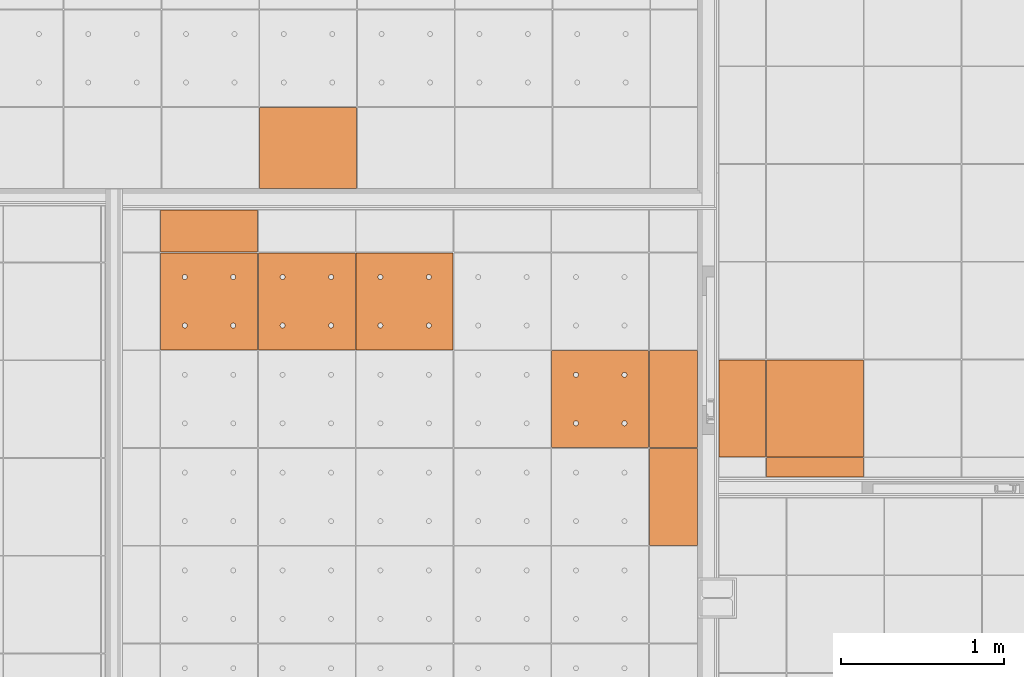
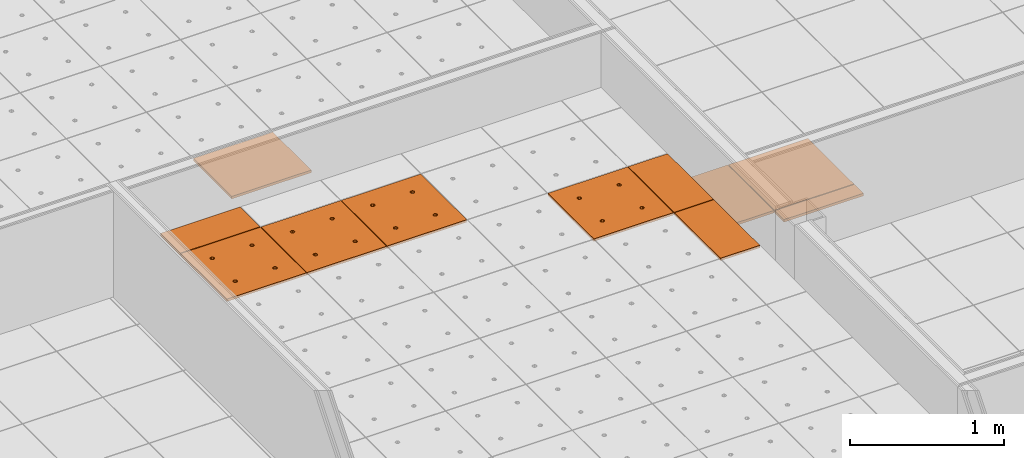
# One storey, part 277 of 338: 11 proxies, 3 elements without a shape of their own.
"""IFC2X3 building model written with IfcOpenShell, lengths in millimetres."""

import ifcopenshell
import ifcopenshell.guid

model = None  # the IFC model being written
_history = None  # IfcOwnerHistory: only IFC2X3 demands one
_inside = {}  # id of a spatial element -> (the spatial element, [elements in it])
_under = {}  # id of a project, library or spatial element -> (it, [spatial elements below it])
_declared = {}  # id of a project -> (the project, [libraries it declares])
_typed = {}  # id of a type object -> (the type object, [elements of that type])
_made_of = {}  # id of a material, layer set ... -> (it, [elements and type objects made of it])


def new_model(schema):
    """Start an empty IFC model of exactly this schema.

    Asked for "IFC4X3", IfcOpenShell would pick the latest addendum, in which some entities
    have other attributes; the version numbers below select the first issue.
    IFC2X3 requires an IfcOwnerHistory on every rooted entity: one is made here for all.
    """
    global model, _history
    if schema == "IFC4X3":
        model = ifcopenshell.file(schema_version=(4, 3, 0, 0))
    else:
        model = ifcopenshell.file(schema=schema)
    _inside.clear()
    _under.clear()
    _declared.clear()
    _typed.clear()
    _made_of.clear()
    _history = None
    if model.schema == "IFC2X3":
        org = make("IfcOrganization", Name="unknown")
        user = make(
            "IfcPersonAndOrganization",
            ThePerson=make("IfcPerson", FamilyName="unknown"),
            TheOrganization=org,
        )
        app = make(
            "IfcApplication",
            ApplicationDeveloper=org,
            Version="unknown",
            ApplicationFullName="unknown",
            ApplicationIdentifier="unknown",
        )
        _history = make(
            "IfcOwnerHistory",
            OwningUser=user,
            OwningApplication=app,
            ChangeAction="ADDED",
            CreationDate=0,
        )
    return model


def make(cls, **values):
    """One entity of the class cls with the attributes given. An attribute that is None is left unset."""
    return model.create_entity(
        cls, **{name: value for name, value in values.items() if value is not None}
    )


def entity(cls, *values):
    """Any entity or typed value of the class cls, its attributes in the order of the schema. None: left unset."""
    e = model.create_entity(cls)
    for i, value in enumerate(values):
        if value is not None:
            e[i] = value
    return e


def rooted(cls, **values):
    """An entity with a GlobalId (a new one), such as an element, a storey or a relation."""
    return make(cls, GlobalId=ifcopenshell.guid.new(), OwnerHistory=_history, **values)


def si_unit(unit_type, name, prefix=None):
    """IfcSIUnit, for example si_unit("LENGTHUNIT", "METRE", prefix="MILLI")."""
    return make("IfcSIUnit", UnitType=unit_type, Prefix=prefix, Name=name)


def converted_unit(unit_type, name, factor, base, dimensions=None, offset=None):
    """IfcConversionBasedUnit, such as the inch: factor (a typed value) times the base unit."""
    return make(
        "IfcConversionBasedUnit"
        if offset is None
        else "IfcConversionBasedUnitWithOffset",
        ConversionOffset=offset,
        Dimensions=None
        if dimensions is None
        else entity("IfcDimensionalExponents", *dimensions),
        UnitType=unit_type,
        Name=name,
        ConversionFactor=make(
            "IfcMeasureWithUnit", ValueComponent=factor, UnitComponent=base
        ),
    )


def derived_unit(unit_type, elements):
    """IfcDerivedUnit: a product of units, each with its exponent."""
    return make(
        "IfcDerivedUnit",
        Elements=[
            make("IfcDerivedUnitElement", Unit=unit, Exponent=power)
            for unit, power in elements
        ],
        UnitType=unit_type,
    )


def money_unit(currency):
    """IfcMonetaryUnit."""
    return make("IfcMonetaryUnit", Currency=currency)


def assignment(units):
    """IfcUnitAssignment: the units of a project."""
    return None if units is None else make("IfcUnitAssignment", Units=units)


def point(xyz):
    """IfcCartesianPoint."""
    return None if xyz is None else make("IfcCartesianPoint", Coordinates=xyz)


def direction(xyz):
    """IfcDirection."""
    return None if xyz is None else make("IfcDirection", DirectionRatios=xyz)


def frame(location, z_axis=None, x_axis=None):
    """IfcAxis2Placement3D, a coordinate frame: its origin and axes. An axis left out is left unset."""
    return make(
        "IfcAxis2Placement3D",
        Location=point(location),
        Axis=direction(z_axis),
        RefDirection=direction(x_axis),
    )


def origin_with_axes():
    """The frame at (0, 0, 0) with the z axis (0, 0, 1) and the x axis (1, 0, 0) written out."""
    return frame((0.0, 0.0, 0.0), z_axis=(0.0, 0.0, 1.0), x_axis=(1.0, 0.0, 0.0))


def place(relative_to, where):
    """IfcLocalPlacement: puts the frame where relative to a parent placement (None: the world)."""
    return make(
        "IfcLocalPlacement", PlacementRelTo=relative_to, RelativePlacement=where
    )


def context(
    kind, dimensions, precision=None, world=None, true_north=None, identifier=None
):
    """IfcGeometricRepresentationContext, for example the 3D "Model" context."""
    return make(
        "IfcGeometricRepresentationContext",
        ContextIdentifier=identifier,
        ContextType=kind,
        CoordinateSpaceDimension=dimensions,
        Precision=precision,
        WorldCoordinateSystem=world,
        TrueNorth=true_north,
    )


def subcontext(parent, identifier, kind, view, scale=None):
    """IfcGeometricRepresentationSubContext, for example "Body" below "Model"."""
    return make(
        "IfcGeometricRepresentationSubContext",
        ContextIdentifier=identifier,
        ContextType=kind,
        ParentContext=parent,
        TargetScale=scale,
        TargetView=view,
    )


def project(units=None, contexts=None):
    """IfcProject with its units and contexts."""
    return rooted(
        "IfcProject",
        Name="project",
        RepresentationContexts=contexts,
        UnitsInContext=assignment(units),
    )


def spatial(cls, under=None, at=None, **own):
    """A site, building, storey or space (cls), placed at a placement, below another one or the project."""
    s = rooted(cls, ObjectPlacement=at, **own)
    if under is not None:
        _under.setdefault(under.id(), (under, []))[1].append(s)
    return s


def faces_of(points, faces, orient=None, outer=None):
    """IfcFace entities. A face is a list of loops; a loop is a list of indices into points, from 0.

    orient and outer hold one flag for each loop. By default every Orientation is true, the
    first loop of a face is its IfcFaceOuterBound and the others are IfcFaceBound.
    """
    made = []
    for i, loops in enumerate(faces):
        bounds = []
        for j, loop in enumerate(loops):
            is_outer = j == 0 if outer is None else outer[i][j]
            bounds.append(
                make(
                    "IfcFaceOuterBound" if is_outer else "IfcFaceBound",
                    Bound=make("IfcPolyLoop", Polygon=[points[k] for k in loop]),
                    Orientation=True if orient is None else orient[i][j],
                )
            )
        made.append(make("IfcFace", Bounds=bounds))
    return made


def faceted_brep(points, faces, orient=None, outer=None, voids=None):
    """IfcFacetedBrep: a solid bounded by flat faces; with voids (closed shells), ...WithVoids."""
    shared = [point(p) for p in points]
    hull = make("IfcClosedShell", CfsFaces=faces_of(shared, faces, orient, outer))
    if voids is None:
        return make("IfcFacetedBrep", Outer=hull)
    return make(
        "IfcFacetedBrepWithVoids",
        Outer=hull,
        Voids=[
            make(cls, CfsFaces=faces_of(shared, fs, o, b)) for cls, fs, o, b in voids
        ],
    )


def shape(context_of_items, identifier, shape_type, items):
    """IfcShapeRepresentation: the items that make up one representation, for example the "Body"."""
    return make(
        "IfcShapeRepresentation",
        ContextOfItems=context_of_items,
        RepresentationIdentifier=identifier,
        RepresentationType=shape_type,
        Items=items,
    )


def source(mapping_origin, context_of_items, identifier, shape_type, items):
    """IfcRepresentationMap: a shape defined once, which mapped items show again and again."""
    return make(
        "IfcRepresentationMap",
        MappingOrigin=mapping_origin,
        MappedRepresentation=shape(context_of_items, identifier, shape_type, items),
    )


def transform(
    local_origin,
    x_axis=None,
    y_axis=None,
    z_axis=None,
    scale=None,
    scale2=None,
    scale3=None,
    uniform=True,
):
    """IfcCartesianTransformationOperator3D, or its non-uniform kind. x_axis, y_axis, z_axis: its Axis1, 2, 3."""
    if uniform:
        return make(
            "IfcCartesianTransformationOperator3D",
            Axis1=direction(x_axis),
            Axis2=direction(y_axis),
            LocalOrigin=point(local_origin),
            Scale=scale,
            Axis3=direction(z_axis),
        )
    return make(
        "IfcCartesianTransformationOperator3DnonUniform",
        Axis1=direction(x_axis),
        Axis2=direction(y_axis),
        LocalOrigin=point(local_origin),
        Scale=scale,
        Axis3=direction(z_axis),
        Scale2=scale2,
        Scale3=scale3,
    )


def mapped(mapping_source, mapping_target):
    """IfcMappedItem: shows the shape of a source again, moved by a transform."""
    return make(
        "IfcMappedItem", MappingSource=mapping_source, MappingTarget=mapping_target
    )


def material(Name=None, Category=None):
    """IfcMaterial."""
    return make("IfcMaterial", Name=Name, Category=Category)


def made_of(thing, what):
    """Note that an element or type object is made of a material, layer set ...; save() writes the relation."""
    if what is not None:
        _made_of.setdefault(what.id(), (what, []))[1].append(thing)
    return thing


def type_object(cls, material=None, **own):
    """A type object (cls), such as IfcWallType, which elements share."""
    return made_of(rooted(cls, **own), material)


def type_shapes(of_type, sources):
    """Give a type object the sources (RepresentationMaps) that its elements show as mapped items."""
    of_type.RepresentationMaps = sources


def element(
    cls,
    number,
    at=None,
    inside=None,
    cuts=None,
    type_object=None,
    material=None,
    context=None,
    identifier="Body",
    shape_type=None,
    held_by="IfcProductDefinitionShape",
    body=None,
    shapes=None,
    **own,
):
    """One element of the class cls, such as IfcWall. Its Tag is "e" and its number.

    at: its placement. inside: the storey or other place that contains it. cuts: it is an
    opening in that element (IfcRelVoidsElement). A single representation is given by context,
    identifier, shape_type and body (its items); several are given by shapes. held_by: the class
    of the entity that holds the representations. save() writes the other relations.
    """
    e = rooted(cls, Tag="e%d" % number, ObjectPlacement=at, **own)
    if body is not None:
        shapes = [shape(context, identifier, shape_type, body)]
    if shapes is not None:
        e.Representation = make(held_by, Representations=shapes)
    if inside is not None:
        _inside.setdefault(inside.id(), (inside, []))[1].append(e)
    if cuts is not None:
        rooted(
            "IfcRelVoidsElement", RelatingBuildingElement=cuts, RelatedOpeningElement=e
        )
    if type_object is not None:
        _typed.setdefault(type_object.id(), (type_object, []))[1].append(e)
    return made_of(e, material)


def aggregate(whole, parts):
    """IfcRelAggregates: a whole, such as a stair, and the parts it consists of."""
    return rooted("IfcRelAggregates", RelatingObject=whole, RelatedObjects=parts)


def save(model, path):
    """Write the relations noted so far, then the file.

    IfcRelAggregates (storeys below a building ...), IfcRelContainedInSpatialStructure (elements
    in a storey), IfcRelDefinesByType, IfcRelAssociatesMaterial and IfcRelDeclares: one each for
    every whole, place, type object, material and project.
    """
    for whole, parts in _under.values():
        aggregate(whole, parts)
    for where, things in _inside.values():
        rooted(
            "IfcRelContainedInSpatialStructure",
            RelatedElements=things,
            RelatingStructure=where,
        )
    for kind, things in _typed.values():
        rooted("IfcRelDefinesByType", RelatedObjects=things, RelatingType=kind)
    for what, things in _made_of.values():
        rooted("IfcRelAssociatesMaterial", RelatedObjects=things, RelatingMaterial=what)
    for by, libraries in _declared.values():
        rooted("IfcRelDeclares", RelatingContext=by, RelatedDefinitions=libraries)
    model.write(path)


model = new_model("IFC2X3")

# Units and contexts
model_context = context("Model", 3, precision=0.01, world=origin_with_axes(), true_north=direction((0.0, 1.0)))
plan_context = context("Plan", 3, precision=0.01, world=origin_with_axes(), true_north=direction((0.0, 1.0)))
body_context = subcontext(model_context, "Body", "Model", "MODEL_VIEW")
ifc_project = project(units=[si_unit("LENGTHUNIT", "METRE", prefix="MILLI"), si_unit("AREAUNIT", "SQUARE_METRE"), si_unit("VOLUMEUNIT", "CUBIC_METRE"), converted_unit("PLANEANGLEUNIT", "DEGREE", entity("IfcPlaneAngleMeasure", 0.0174532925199), si_unit("PLANEANGLEUNIT", "RADIAN"), dimensions=[0, 0, 0, 0, 0, 0, 0]), money_unit("EUR"), converted_unit("TIMEUNIT", "Year", entity("IfcTimeMeasure", 31556926.0), si_unit("TIMEUNIT", "SECOND"), dimensions=[0, 0, 1, 0, 0, 0, 0]), si_unit("MASSUNIT", "GRAM", prefix="KILO"), si_unit("THERMODYNAMICTEMPERATUREUNIT", "DEGREE_CELSIUS"), si_unit("LUMINOUSINTENSITYUNIT", "LUMEN"), si_unit("ENERGYUNIT", "JOULE", prefix="MEGA"), derived_unit("THERMALCONDUCTANCEUNIT", [(si_unit("POWERUNIT", "WATT"), 1), (si_unit("LENGTHUNIT", "METRE"), -1), (si_unit("THERMODYNAMICTEMPERATUREUNIT", "KELVIN"), -1)]), derived_unit("SPECIFICHEATCAPACITYUNIT", [(si_unit("ENERGYUNIT", "JOULE"), 1), (si_unit("MASSUNIT", "GRAM", prefix="KILO"), -1), (si_unit("THERMODYNAMICTEMPERATUREUNIT", "KELVIN"), -1)]), derived_unit("MASSDENSITYUNIT", [(si_unit("MASSUNIT", "GRAM", prefix="KILO"), 1), (si_unit("VOLUMEUNIT", "CUBIC_METRE"), -1)])], contexts=[model_context, plan_context])

# Site, building, storey
site_placement = place(None, origin_with_axes())
site = spatial("IfcSite", under=ifc_project, at=site_placement, Name="Fortuinstraat Woensdrecht", CompositionType="ELEMENT")
building_placement = place(site_placement, origin_with_axes())
building = spatial("IfcBuilding", under=site, at=building_placement, Name="IKC Fortuna", CompositionType="ELEMENT")
storey_placement = place(building_placement, origin_with_axes())
storey = spatial("IfcBuildingStorey", under=building, at=storey_placement, Name="00 begane grond", CompositionType="ELEMENT", Elevation=0.0)

# Covering, proxy
covering_type = type_object("IfcCoveringType", Name="Curtain Wall Type", PredefinedType="CEILING")
covering_1_placement = place(storey_placement, frame((15059.4416165, 34009.703821, 3210.0), z_axis=(0.0, 0.0, 1.0), x_axis=(1.0, 0.0, 0.0)))
covering_1 = element("IfcCovering", 1, at=covering_1_placement, inside=storey, type_object=covering_type, Name="45_Plafondafwerking_P01", PredefinedType="CEILING")
ifc_material = material(Name="Gipsplaat")
building_element_proxy_type_1 = type_object("IfcBuildingElementProxyType", Name="Main Panel 600 x 503 x 20", PredefinedType="NOTDEFINED")
shared_shape_1 = source(origin_with_axes(), body_context, "Body", "Brep", [
    faceted_brep([(2.49999999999, 2.49999752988, -10.0), (597.5, 2.49999752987, -10.0), (597.5, 2.49999752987, 10.0), (2.49999999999, 2.49999752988, 10.0), (2.5, 500.092828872, -10.0), (597.5, 500.092828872, -10.0), (597.5, 500.092828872, 10.0), (2.5, 500.092828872, 10.0)], [[[0, 1, 2, 3]], [[0, 4, 5, 1]], [[1, 5, 6, 2]], [[3, 2, 6, 7]], [[4, 0, 3, 7]], [[5, 4, 7, 6]]]),
])
type_shapes(building_element_proxy_type_1, [shared_shape_1])
proxy_1_placement = place(covering_1_placement, frame((3000.0, -7151.29641444, 0.0), z_axis=(0.0, 0.0, 1.0), x_axis=(1.0, 0.0, 0.0)))
proxy_1 = element("IfcBuildingElementProxy", 2, at=proxy_1_placement, type_object=building_element_proxy_type_1, material=ifc_material, Name="__Panel-D", context=body_context, shape_type="MappedRepresentation", body=[
    mapped(shared_shape_1, transform((300.0, 251.296414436, 0.0), x_axis=(-1.0, 0.0, 0.0), y_axis=(0.0, -1.0, 0.0), z_axis=(0.0, 0.0, 1.0))),
])
aggregate(covering_1, [proxy_1])

# Covering, proxies
covering_2_placement = place(storey_placement, frame((21169.4446171, 27661.0834994, 3010.0), z_axis=(0.0, 0.0, 1.0), x_axis=(1.0, 0.0, 0.0)))
covering_2 = element("IfcCovering", 3, at=covering_2_placement, inside=storey, type_object=covering_type, Name="45_Plafondafwerking_P04", PredefinedType="CEILING")
building_element_proxy_type_2 = type_object("IfcBuildingElementProxyType", Name="Distinct Panel 600 x 600 x 20", PredefinedType="NOTDEFINED")
shared_shape_2 = source(origin_with_axes(), body_context, "Body", "Brep", [
    faceted_brep([(-2.49999999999, 2.5, -10.0), (-2.49999999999, 2.5, 10.0), (-597.5, 2.49999999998, 10.0), (-597.5, 2.49999999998, -10.0), (-2.50000000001, 597.5, -10.0), (-2.50000000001, 597.5, 10.0), (-597.5, 597.5, 10.0), (-597.5, 597.5, -10.0)], [[[0, 1, 2, 3]], [[4, 5, 1, 0]], [[1, 5, 6, 2]], [[3, 2, 6, 7]], [[0, 3, 7, 4]], [[7, 6, 5, 4]]]),
])
type_shapes(building_element_proxy_type_2, [shared_shape_2])
proxy_2_placement = place(covering_2_placement, frame((0.0, -2400.0, 0.0), z_axis=(0.0, 0.0, 1.0), x_axis=(1.0, 0.0, 0.0)))
proxy_2 = element("IfcBuildingElementProxy", 4, at=proxy_2_placement, type_object=building_element_proxy_type_2, material=ifc_material, Name="__Panel-D", context=body_context, shape_type="MappedRepresentation", body=[
    mapped(shared_shape_2, transform((-300.0, 300.0, 0.0), x_axis=(-1.0, 0.0, 0.0), y_axis=(0.0, -1.0, 0.0), z_axis=(0.0, 0.0, 1.0))),
])
building_element_proxy_type_3 = type_object("IfcBuildingElementProxyType", Name="Distinct Panel 293 x 600 x 20", PredefinedType="NOTDEFINED")
shared_shape_3 = source(origin_with_axes(), body_context, "Body", "Brep", [
    faceted_brep([(-309.99037086, 2.5, -10.0), (-309.99037086, 2.5, 10.0), (-597.5, 2.49999999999, 10.0), (-597.5, 2.49999999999, -10.0), (-309.99037086, 597.5, -10.0), (-309.99037086, 597.5, 10.0), (-597.5, 597.5, 10.0), (-597.5, 597.5, -10.0)], [[[0, 1, 2, 3]], [[4, 5, 1, 0]], [[1, 5, 6, 2]], [[3, 2, 6, 7]], [[0, 3, 7, 4]], [[7, 6, 5, 4]]]),
])
type_shapes(building_element_proxy_type_3, [shared_shape_3])
proxy_3_placement = place(covering_2_placement, frame((-446.254815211, -2400.0, 0.0), z_axis=(0.0, 0.0, 1.0), x_axis=(1.0, 0.0, 0.0)))
proxy_3 = element("IfcBuildingElementProxy", 5, at=proxy_3_placement, type_object=building_element_proxy_type_3, material=ifc_material, Name="__Panel-D", context=body_context, shape_type="MappedRepresentation", body=[
    mapped(shared_shape_3, transform((-453.745184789, 300.0, 0.0), x_axis=(-1.0, 0.0, 0.0), y_axis=(0.0, -1.0, 0.0), z_axis=(0.0, 0.0, 1.0))),
])
building_element_proxy_type_4 = type_object("IfcBuildingElementProxyType", Name="Distinct Panel 600 x 123 x 20", PredefinedType="NOTDEFINED")
shared_shape_4 = source(origin_with_axes(), body_context, "Body", "Brep", [
    faceted_brep([(-2.5, 2.50000154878, -10.0), (-2.5, 2.50000154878, 10.0), (-597.5, 2.50000154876, 10.0), (-597.5, 2.50000154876, -10.0), (-2.5, 120.392418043, -10.0), (-2.5, 120.392418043, 10.0), (-597.5, 120.392418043, 10.0), (-597.5, 120.392418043, -10.0)], [[[0, 1, 2, 3]], [[4, 5, 1, 0]], [[1, 5, 6, 2]], [[3, 2, 6, 7]], [[0, 3, 7, 4]], [[7, 6, 5, 4]]]),
])
type_shapes(building_element_proxy_type_4, [shared_shape_4])
proxy_4_placement = place(covering_2_placement, frame((0.0, -2761.44618081, 0.0), z_axis=(0.0, 0.0, 1.0), x_axis=(1.0, 0.0, 0.0)))
proxy_4 = element("IfcBuildingElementProxy", 6, at=proxy_4_placement, type_object=building_element_proxy_type_4, material=ifc_material, Name="__Panel-D", context=body_context, shape_type="MappedRepresentation", body=[
    mapped(shared_shape_4, transform((-300.0, 61.4461808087, 0.0), x_axis=(-1.0, 0.0, 0.0), y_axis=(0.0, -1.0, 0.0), z_axis=(0.0, 0.0, 1.0))),
])
aggregate(covering_2, [proxy_4, proxy_3, proxy_2])

covering_3_placement = place(storey_placement, frame((17451.9845996, 24118.5314449, 3210.0), z_axis=(0.0, 0.0, 1.0), x_axis=(1.0, 0.0, 0.0)))
covering_3 = element("IfcCovering", 7, at=covering_3_placement, inside=storey, type_object=covering_type, Name="45_Plafondafwerking_P01", PredefinedType="CEILING")
building_element_proxy_type_5 = type_object("IfcBuildingElementProxyType", Name="Main Panel 600 x 600 x 20", PredefinedType="NOTDEFINED")
shared_shape_5 = source(origin_with_axes(), body_context, "Body", "Brep", [
    faceted_brep([(2.49999999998, 2.49999999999, -10.0), (300.0, 2.49999999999, -10.0), (300.0, 2.49999999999, 10.0), (2.49999999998, 2.49999999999, 10.0), (2.49999999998, 300.0, -10.0), (2.49999999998, 597.5, -10.0), (300.0, 597.5, -10.0), (597.5, 597.5, -10.0), (597.5, 300.0, -10.0), (597.5, 2.49999999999, -10.0), (166.25, 450.06232995, -10.0), (165.79423259, 452.64711538, -10.0), (164.896546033, 455.11348892, -10.0), (163.58421608, 457.38651108, -10.0), (161.897117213, 459.39711721, -10.0), (159.886511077, 461.08421608, -10.0), (157.613488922, 462.39654603, -10.0), (155.147115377, 463.29423259, -10.0), (152.562329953, 463.75, -10.0), (149.937670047, 463.75, -10.0), (147.352884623, 463.29423259, -10.0), (144.886511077, 462.39654603, -10.0), (142.613488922, 461.08421608, -10.0), (140.602882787, 459.39711721, -10.0), (138.91578392, 457.38651108, -10.0), (137.603453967, 455.11348892, -10.0), (136.705767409, 452.64711538, -10.0), (136.25, 450.06232995, -10.0), (136.25, 448.75, -10.0), (136.25, 447.43767005, -10.0), (136.705767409, 444.85288462, -10.0), (137.603453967, 442.38651108, -10.0), (138.91578392, 440.11348892, -10.0), (140.602882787, 438.10288279, -10.0), (142.613488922, 436.41578392, -10.0), (144.886511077, 435.10345397, -10.0), (147.352884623, 434.20576741, -10.0), (149.937670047, 433.75, -10.0), (152.562329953, 433.75, -10.0), (155.147115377, 434.20576741, -10.0), (157.613488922, 435.10345397, -10.0), (159.886511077, 436.41578392, -10.0), (161.897117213, 438.10288279, -10.0), (163.58421608, 440.11348892, -10.0), (164.896546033, 442.38651108, -10.0), (165.79423259, 444.85288462, -10.0), (166.25, 447.43767005, -10.0), (463.75, 450.06232995, -10.0), (463.29423259, 452.64711538, -10.0), (462.396546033, 455.11348892, -10.0), (461.08421608, 457.38651108, -10.0), (459.397117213, 459.39711721, -10.0), (457.386511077, 461.08421608, -10.0), (455.113488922, 462.39654603, -10.0), (452.647115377, 463.29423259, -10.0), (450.062329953, 463.75, -10.0), (447.437670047, 463.75, -10.0), (444.852884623, 463.29423259, -10.0), (442.386511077, 462.39654603, -10.0), (440.113488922, 461.08421608, -10.0), (438.102882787, 459.39711721, -10.0), (436.41578392, 457.38651108, -10.0), (435.103453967, 455.11348892, -10.0), (434.205767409, 452.64711538, -10.0), (433.75, 450.06232995, -10.0), (433.75, 448.75, -10.0), (433.75, 447.43767005, -10.0), (434.205767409, 444.85288462, -10.0), (435.103453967, 442.38651108, -10.0), (436.41578392, 440.11348892, -10.0), (438.102882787, 438.10288279, -10.0), (440.113488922, 436.41578392, -10.0), (442.386511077, 435.10345397, -10.0), (444.852884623, 434.20576741, -10.0), (447.437670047, 433.75, -10.0), (450.062329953, 433.75, -10.0), (452.647115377, 434.20576741, -10.0), (455.113488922, 435.10345397, -10.0), (457.386511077, 436.41578392, -10.0), (459.397117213, 438.10288279, -10.0), (461.08421608, 440.11348892, -10.0), (462.396546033, 442.38651108, -10.0), (463.29423259, 444.85288462, -10.0), (463.75, 447.43767005, -10.0), (463.75, 152.56232995, -10.0), (463.29423259, 155.14711538, -10.0), (462.396546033, 157.61348892, -10.0), (461.08421608, 159.88651108, -10.0), (459.397117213, 161.89711721, -10.0), (457.386511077, 163.58421608, -10.0), (455.113488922, 164.89654603, -10.0), (452.647115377, 165.79423259, -10.0), (450.062329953, 166.25, -10.0), (447.437670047, 166.25, -10.0), (444.852884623, 165.79423259, -10.0), (442.386511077, 164.89654603, -10.0), (440.113488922, 163.58421608, -10.0), (438.102882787, 161.89711721, -10.0), (436.41578392, 159.88651108, -10.0), (435.103453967, 157.61348892, -10.0), (434.205767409, 155.14711538, -10.0), (433.75, 152.56232995, -10.0), (433.75, 151.25, -10.0), (433.75, 149.93767005, -10.0), (434.205767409, 147.35288462, -10.0), (435.103453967, 144.88651108, -10.0), (436.41578392, 142.61348892, -10.0), (438.102882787, 140.60288279, -10.0), (440.113488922, 138.91578392, -10.0), (442.386511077, 137.60345397, -10.0), (444.852884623, 136.70576741, -10.0), (447.437670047, 136.25, -10.0), (450.062329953, 136.25, -10.0), (452.647115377, 136.70576741, -10.0), (455.113488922, 137.60345397, -10.0), (457.386511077, 138.91578392, -10.0), (459.397117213, 140.60288279, -10.0), (461.08421608, 142.61348892, -10.0), (462.396546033, 144.88651108, -10.0), (463.29423259, 147.35288462, -10.0), (463.75, 149.93767005, -10.0), (166.25, 152.56232995, -10.0), (165.79423259, 155.14711538, -10.0), (164.896546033, 157.61348892, -10.0), (163.58421608, 159.88651108, -10.0), (161.897117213, 161.89711721, -10.0), (159.886511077, 163.58421608, -10.0), (157.613488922, 164.89654603, -10.0), (155.147115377, 165.79423259, -10.0), (152.562329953, 166.25, -10.0), (149.937670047, 166.25, -10.0), (147.352884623, 165.79423259, -10.0), (144.886511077, 164.89654603, -10.0), (142.613488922, 163.58421608, -10.0), (140.602882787, 161.89711721, -10.0), (138.91578392, 159.88651108, -10.0), (137.603453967, 157.61348892, -10.0), (136.705767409, 155.14711538, -10.0), (136.25, 152.56232995, -10.0), (136.25, 151.25, -10.0), (136.25, 149.93767005, -10.0), (136.705767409, 147.35288462, -10.0), (137.603453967, 144.88651108, -10.0), (138.91578392, 142.61348892, -10.0), (140.602882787, 140.60288279, -10.0), (142.613488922, 138.91578392, -10.0), (144.886511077, 137.60345397, -10.0), (147.352884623, 136.70576741, -10.0), (149.937670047, 136.25, -10.0), (152.562329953, 136.25, -10.0), (155.147115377, 136.70576741, -10.0), (157.613488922, 137.60345397, -10.0), (159.886511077, 138.91578392, -10.0), (161.897117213, 140.60288279, -10.0), (163.58421608, 142.61348892, -10.0), (164.896546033, 144.88651108, -10.0), (165.79423259, 147.35288462, -10.0), (166.25, 149.93767005, -10.0), (597.5, 2.49999999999, 10.0), (597.5, 300.0, 10.0), (597.5, 597.5, 10.0), (300.0, 597.5, 10.0), (2.49999999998, 597.5, 10.0), (2.49999999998, 300.0, 10.0), (166.25, 450.06232995, 10.0), (166.25, 447.43767005, 10.0), (165.79423259, 444.85288462, 10.0), (164.896546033, 442.38651108, 10.0), (163.58421608, 440.11348892, 10.0), (161.897117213, 438.10288279, 10.0), (159.886511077, 436.41578392, 10.0), (157.613488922, 435.10345397, 10.0), (155.147115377, 434.20576741, 10.0), (152.562329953, 433.75, 10.0), (149.937670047, 433.75, 10.0), (147.352884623, 434.20576741, 10.0), (144.886511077, 435.10345397, 10.0), (142.613488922, 436.41578392, 10.0), (140.602882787, 438.10288279, 10.0), (138.91578392, 440.11348892, 10.0), (137.603453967, 442.38651108, 10.0), (136.705767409, 444.85288462, 10.0), (136.25, 447.43767005, 10.0), (136.25, 448.75, 10.0), (136.25, 450.06232995, 10.0), (136.705767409, 452.64711538, 10.0), (137.603453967, 455.11348892, 10.0), (138.91578392, 457.38651108, 10.0), (140.602882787, 459.39711721, 10.0), (142.613488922, 461.08421608, 10.0), (144.886511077, 462.39654603, 10.0), (147.352884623, 463.29423259, 10.0), (149.937670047, 463.75, 10.0), (152.562329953, 463.75, 10.0), (155.147115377, 463.29423259, 10.0), (157.613488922, 462.39654603, 10.0), (159.886511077, 461.08421608, 10.0), (161.897117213, 459.39711721, 10.0), (163.58421608, 457.38651108, 10.0), (164.896546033, 455.11348892, 10.0), (165.79423259, 452.64711538, 10.0), (463.75, 450.06232995, 10.0), (463.75, 447.43767005, 10.0), (463.29423259, 444.85288462, 10.0), (462.396546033, 442.38651108, 10.0), (461.08421608, 440.11348892, 10.0), (459.397117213, 438.10288279, 10.0), (457.386511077, 436.41578392, 10.0), (455.113488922, 435.10345397, 10.0), (452.647115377, 434.20576741, 10.0), (450.062329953, 433.75, 10.0), (447.437670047, 433.75, 10.0), (444.852884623, 434.20576741, 10.0), (442.386511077, 435.10345397, 10.0), (440.113488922, 436.41578392, 10.0), (438.102882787, 438.10288279, 10.0), (436.41578392, 440.11348892, 10.0), (435.103453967, 442.38651108, 10.0), (434.205767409, 444.85288462, 10.0), (433.75, 447.43767005, 10.0), (433.75, 448.75, 10.0), (433.75, 450.06232995, 10.0), (434.205767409, 452.64711538, 10.0), (435.103453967, 455.11348892, 10.0), (436.41578392, 457.38651108, 10.0), (438.102882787, 459.39711721, 10.0), (440.113488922, 461.08421608, 10.0), (442.386511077, 462.39654603, 10.0), (444.852884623, 463.29423259, 10.0), (447.437670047, 463.75, 10.0), (450.062329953, 463.75, 10.0), (452.647115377, 463.29423259, 10.0), (455.113488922, 462.39654603, 10.0), (457.386511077, 461.08421608, 10.0), (459.397117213, 459.39711721, 10.0), (461.08421608, 457.38651108, 10.0), (462.396546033, 455.11348892, 10.0), (463.29423259, 452.64711538, 10.0), (463.75, 152.56232995, 10.0), (463.75, 149.93767005, 10.0), (463.29423259, 147.35288462, 10.0), (462.396546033, 144.88651108, 10.0), (461.08421608, 142.61348892, 10.0), (459.397117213, 140.60288279, 10.0), (457.386511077, 138.91578392, 10.0), (455.113488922, 137.60345397, 10.0), (452.647115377, 136.70576741, 10.0), (450.062329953, 136.25, 10.0), (447.437670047, 136.25, 10.0), (444.852884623, 136.70576741, 10.0), (442.386511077, 137.60345397, 10.0), (440.113488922, 138.91578392, 10.0), (438.102882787, 140.60288279, 10.0), (436.41578392, 142.61348892, 10.0), (435.103453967, 144.88651108, 10.0), (434.205767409, 147.35288462, 10.0), (433.75, 149.93767005, 10.0), (433.75, 151.25, 10.0), (433.75, 152.56232995, 10.0), (434.205767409, 155.14711538, 10.0), (435.103453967, 157.61348892, 10.0), (436.41578392, 159.88651108, 10.0), (438.102882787, 161.89711721, 10.0), (440.113488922, 163.58421608, 10.0), (442.386511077, 164.89654603, 10.0), (444.852884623, 165.79423259, 10.0), (447.437670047, 166.25, 10.0), (450.062329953, 166.25, 10.0), (452.647115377, 165.79423259, 10.0), (455.113488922, 164.89654603, 10.0), (457.386511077, 163.58421608, 10.0), (459.397117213, 161.89711721, 10.0), (461.08421608, 159.88651108, 10.0), (462.396546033, 157.61348892, 10.0), (463.29423259, 155.14711538, 10.0), (166.25, 152.56232995, 10.0), (166.25, 149.93767005, 10.0), (165.79423259, 147.35288462, 10.0), (164.896546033, 144.88651108, 10.0), (163.58421608, 142.61348892, 10.0), (161.897117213, 140.60288279, 10.0), (159.886511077, 138.91578392, 10.0), (157.613488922, 137.60345397, 10.0), (155.147115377, 136.70576741, 10.0), (152.562329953, 136.25, 10.0), (149.937670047, 136.25, 10.0), (147.352884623, 136.70576741, 10.0), (144.886511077, 137.60345397, 10.0), (142.613488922, 138.91578392, 10.0), (140.602882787, 140.60288279, 10.0), (138.91578392, 142.61348892, 10.0), (137.603453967, 144.88651108, 10.0), (136.705767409, 147.35288462, 10.0), (136.25, 149.93767005, 10.0), (136.25, 151.25, 10.0), (136.25, 152.56232995, 10.0), (136.705767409, 155.14711538, 10.0), (137.603453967, 157.61348892, 10.0), (138.91578392, 159.88651108, 10.0), (140.602882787, 161.89711721, 10.0), (142.613488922, 163.58421608, 10.0), (144.886511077, 164.89654603, 10.0), (147.352884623, 165.79423259, 10.0), (149.937670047, 166.25, 10.0), (152.562329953, 166.25, 10.0), (155.147115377, 165.79423259, 10.0), (157.613488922, 164.89654603, 10.0), (159.886511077, 163.58421608, 10.0), (161.897117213, 161.89711721, 10.0), (163.58421608, 159.88651108, 10.0), (164.896546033, 157.61348892, 10.0), (165.79423259, 155.14711538, 10.0)], [[[0, 1, 2, 3]], [[0, 4, 5, 6, 7, 8, 9, 1], [10, 11, 12, 13, 14, 15, 16, 17, 18, 19, 20, 21, 22, 23, 24, 25, 26, 27, 28, 29, 30, 31, 32, 33, 34, 35, 36, 37, 38, 39, 40, 41, 42, 43, 44, 45, 46], [47, 48, 49, 50, 51, 52, 53, 54, 55, 56, 57, 58, 59, 60, 61, 62, 63, 64, 65, 66, 67, 68, 69, 70, 71, 72, 73, 74, 75, 76, 77, 78, 79, 80, 81, 82, 83], [84, 85, 86, 87, 88, 89, 90, 91, 92, 93, 94, 95, 96, 97, 98, 99, 100, 101, 102, 103, 104, 105, 106, 107, 108, 109, 110, 111, 112, 113, 114, 115, 116, 117, 118, 119, 120], [121, 122, 123, 124, 125, 126, 127, 128, 129, 130, 131, 132, 133, 134, 135, 136, 137, 138, 139, 140, 141, 142, 143, 144, 145, 146, 147, 148, 149, 150, 151, 152, 153, 154, 155, 156, 157]], [[1, 9, 158, 2]], [[3, 2, 158, 159, 160, 161, 162, 163], [164, 165, 166, 167, 168, 169, 170, 171, 172, 173, 174, 175, 176, 177, 178, 179, 180, 181, 182, 183, 184, 185, 186, 187, 188, 189, 190, 191, 192, 193, 194, 195, 196, 197, 198, 199, 200], [201, 202, 203, 204, 205, 206, 207, 208, 209, 210, 211, 212, 213, 214, 215, 216, 217, 218, 219, 220, 221, 222, 223, 224, 225, 226, 227, 228, 229, 230, 231, 232, 233, 234, 235, 236, 237], [238, 239, 240, 241, 242, 243, 244, 245, 246, 247, 248, 249, 250, 251, 252, 253, 254, 255, 256, 257, 258, 259, 260, 261, 262, 263, 264, 265, 266, 267, 268, 269, 270, 271, 272, 273, 274], [275, 276, 277, 278, 279, 280, 281, 282, 283, 284, 285, 286, 287, 288, 289, 290, 291, 292, 293, 294, 295, 296, 297, 298, 299, 300, 301, 302, 303, 304, 305, 306, 307, 308, 309, 310, 311]], [[4, 0, 3, 163]], [[5, 4, 163, 162]], [[6, 5, 162, 161]], [[7, 6, 161, 160]], [[8, 7, 160, 159]], [[9, 8, 159, 158]], [[11, 10, 164, 200]], [[12, 11, 200, 199]], [[13, 12, 199, 198]], [[14, 13, 198, 197]], [[15, 14, 197, 196]], [[16, 15, 196, 195]], [[17, 16, 195, 194]], [[18, 17, 194, 193]], [[19, 18, 193, 192]], [[20, 19, 192, 191]], [[21, 20, 191, 190]], [[22, 21, 190, 189]], [[23, 22, 189, 188]], [[24, 23, 188, 187]], [[25, 24, 187, 186]], [[26, 25, 186, 185]], [[27, 26, 185, 184]], [[28, 27, 184, 183]], [[29, 28, 183, 182]], [[30, 29, 182, 181]], [[31, 30, 181, 180]], [[32, 31, 180, 179]], [[33, 32, 179, 178]], [[34, 33, 178, 177]], [[35, 34, 177, 176]], [[36, 35, 176, 175]], [[37, 36, 175, 174]], [[38, 37, 174, 173]], [[39, 38, 173, 172]], [[40, 39, 172, 171]], [[41, 40, 171, 170]], [[42, 41, 170, 169]], [[43, 42, 169, 168]], [[44, 43, 168, 167]], [[45, 44, 167, 166]], [[46, 45, 166, 165]], [[10, 46, 165, 164]], [[48, 47, 201, 237]], [[49, 48, 237, 236]], [[50, 49, 236, 235]], [[51, 50, 235, 234]], [[52, 51, 234, 233]], [[53, 52, 233, 232]], [[54, 53, 232, 231]], [[55, 54, 231, 230]], [[56, 55, 230, 229]], [[57, 56, 229, 228]], [[58, 57, 228, 227]], [[59, 58, 227, 226]], [[60, 59, 226, 225]], [[61, 60, 225, 224]], [[62, 61, 224, 223]], [[63, 62, 223, 222]], [[64, 63, 222, 221]], [[65, 64, 221, 220]], [[66, 65, 220, 219]], [[67, 66, 219, 218]], [[68, 67, 218, 217]], [[69, 68, 217, 216]], [[70, 69, 216, 215]], [[71, 70, 215, 214]], [[72, 71, 214, 213]], [[73, 72, 213, 212]], [[74, 73, 212, 211]], [[75, 74, 211, 210]], [[76, 75, 210, 209]], [[77, 76, 209, 208]], [[78, 77, 208, 207]], [[79, 78, 207, 206]], [[80, 79, 206, 205]], [[81, 80, 205, 204]], [[82, 81, 204, 203]], [[83, 82, 203, 202]], [[47, 83, 202, 201]], [[85, 84, 238, 274]], [[86, 85, 274, 273]], [[87, 86, 273, 272]], [[88, 87, 272, 271]], [[89, 88, 271, 270]], [[90, 89, 270, 269]], [[91, 90, 269, 268]], [[92, 91, 268, 267]], [[93, 92, 267, 266]], [[94, 93, 266, 265]], [[95, 94, 265, 264]], [[96, 95, 264, 263]], [[97, 96, 263, 262]], [[98, 97, 262, 261]], [[99, 98, 261, 260]], [[100, 99, 260, 259]], [[101, 100, 259, 258]], [[102, 101, 258, 257]], [[103, 102, 257, 256]], [[104, 103, 256, 255]], [[105, 104, 255, 254]], [[106, 105, 254, 253]], [[107, 106, 253, 252]], [[108, 107, 252, 251]], [[109, 108, 251, 250]], [[110, 109, 250, 249]], [[111, 110, 249, 248]], [[112, 111, 248, 247]], [[113, 112, 247, 246]], [[114, 113, 246, 245]], [[115, 114, 245, 244]], [[116, 115, 244, 243]], [[117, 116, 243, 242]], [[118, 117, 242, 241]], [[119, 118, 241, 240]], [[120, 119, 240, 239]], [[84, 120, 239, 238]], [[122, 121, 275, 311]], [[123, 122, 311, 310]], [[124, 123, 310, 309]], [[125, 124, 309, 308]], [[126, 125, 308, 307]], [[127, 126, 307, 306]], [[128, 127, 306, 305]], [[129, 128, 305, 304]], [[130, 129, 304, 303]], [[131, 130, 303, 302]], [[132, 131, 302, 301]], [[133, 132, 301, 300]], [[134, 133, 300, 299]], [[135, 134, 299, 298]], [[136, 135, 298, 297]], [[137, 136, 297, 296]], [[138, 137, 296, 295]], [[139, 138, 295, 294]], [[140, 139, 294, 293]], [[141, 140, 293, 292]], [[142, 141, 292, 291]], [[143, 142, 291, 290]], [[144, 143, 290, 289]], [[145, 144, 289, 288]], [[146, 145, 288, 287]], [[147, 146, 287, 286]], [[148, 147, 286, 285]], [[149, 148, 285, 284]], [[150, 149, 284, 283]], [[151, 150, 283, 282]], [[152, 151, 282, 281]], [[153, 152, 281, 280]], [[154, 153, 280, 279]], [[155, 154, 279, 278]], [[156, 155, 278, 277]], [[157, 156, 277, 276]], [[121, 157, 276, 275]]]),
])
type_shapes(building_element_proxy_type_5, [shared_shape_5])
proxy_5_placement = place(covering_3_placement, frame((0.0, 1800.0, 0.0), z_axis=(0.0, 0.0, 1.0), x_axis=(1.0, 0.0, 0.0)))
proxy_5 = element("IfcBuildingElementProxy", 8, at=proxy_5_placement, type_object=building_element_proxy_type_5, material=ifc_material, Name="__600x604 Rockfon Krios", context=body_context, shape_type="MappedRepresentation", body=[
    mapped(shared_shape_5, transform((300.0, 300.0, 0.0), x_axis=(-1.0, 0.0, 0.0), y_axis=(0.0, -1.0, 0.0), z_axis=(0.0, 0.0, 1.0))),
])
proxy_6_placement = place(covering_3_placement, frame((1200.0, 1800.0, 0.0), z_axis=(0.0, 0.0, 1.0), x_axis=(1.0, 0.0, 0.0)))
proxy_6 = element("IfcBuildingElementProxy", 9, at=proxy_6_placement, type_object=building_element_proxy_type_5, material=ifc_material, Name="__600x610 Rockfon Krios", context=body_context, shape_type="MappedRepresentation", body=[
    mapped(shared_shape_5, transform((300.0, 300.0, 0.0), x_axis=(-1.0, 0.0, 0.0), y_axis=(0.0, -1.0, 0.0), z_axis=(0.0, 0.0, 1.0))),
])
proxy_7_placement = place(covering_3_placement, frame((600.0, 1800.0, 0.0), z_axis=(0.0, 0.0, 1.0), x_axis=(1.0, 0.0, 0.0)))
proxy_7 = element("IfcBuildingElementProxy", 10, at=proxy_7_placement, type_object=building_element_proxy_type_5, material=ifc_material, Name="__600x615 Rockfon Krios", context=body_context, shape_type="MappedRepresentation", body=[
    mapped(shared_shape_5, transform((300.0, 300.0, 0.0), x_axis=(-1.0, 0.0, 0.0), y_axis=(0.0, -1.0, 0.0), z_axis=(0.0, 0.0, 1.0))),
])
proxy_8_placement = place(covering_3_placement, frame((2400.0, 1200.0, 0.0), z_axis=(0.0, 0.0, 1.0), x_axis=(1.0, 0.0, 0.0)))
proxy_8 = element("IfcBuildingElementProxy", 11, at=proxy_8_placement, type_object=building_element_proxy_type_5, material=ifc_material, Name="__600x634 Rockfon Krios", context=body_context, shape_type="MappedRepresentation", body=[
    mapped(shared_shape_5, transform((300.0, 300.0, 0.0), x_axis=(-1.0, 0.0, 0.0), y_axis=(0.0, -1.0, 0.0), z_axis=(0.0, 0.0, 1.0))),
])
building_element_proxy_type_6 = type_object("IfcBuildingElementProxyType", Name="300 x 600 x 20", PredefinedType="NOTDEFINED")
shared_shape_6 = source(origin_with_axes(), body_context, "Body", "Brep", [
    faceted_brep([(302.549576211, 2.5, -10.0), (597.5, 2.49999999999, -10.0), (597.5, 2.49999999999, 10.0), (302.549576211, 2.5, 10.0), (302.549576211, 597.5, -10.0), (597.5, 597.5, -10.0), (597.5, 597.5, 10.0), (302.549576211, 597.5, 10.0)], [[[0, 1, 2, 3]], [[0, 4, 5, 1]], [[1, 5, 6, 2]], [[3, 2, 6, 7]], [[4, 0, 3, 7]], [[5, 4, 7, 6]]]),
])
type_shapes(building_element_proxy_type_6, [shared_shape_6])
proxy_9_placement = place(covering_3_placement, frame((2849.97521203, 600.0, 0.0), z_axis=(0.0, 0.0, 1.0), x_axis=(1.0, 0.0, 0.0)))
proxy_9 = element("IfcBuildingElementProxy", 12, at=proxy_9_placement, type_object=building_element_proxy_type_6, material=ifc_material, Name="__600x629 Rockfon Krios", context=body_context, shape_type="MappedRepresentation", body=[
    mapped(shared_shape_6, transform((450.024787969, 300.0, 0.0), x_axis=(-1.0, 0.0, 0.0), y_axis=(0.0, -1.0, 0.0), z_axis=(0.0, 0.0, 1.0))),
])
proxy_10_placement = place(covering_3_placement, frame((2849.97521203, 1200.0, 0.0), z_axis=(0.0, 0.0, 1.0), x_axis=(1.0, 0.0, 0.0)))
proxy_10 = element("IfcBuildingElementProxy", 13, at=proxy_10_placement, type_object=building_element_proxy_type_6, material=ifc_material, Name="__600x760 Rockfon Krios", context=body_context, shape_type="MappedRepresentation", body=[
    mapped(shared_shape_6, transform((450.024787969, 300.0, 0.0), x_axis=(-1.0, 0.0, 0.0), y_axis=(0.0, -1.0, 0.0), z_axis=(0.0, 0.0, 1.0))),
])
building_element_proxy_type_7 = type_object("IfcBuildingElementProxyType", Name="600 x 264 x 20", PredefinedType="NOTDEFINED")
shared_shape_7 = source(origin_with_axes(), body_context, "Body", "Brep", [
    faceted_brep([(2.5, 338.920338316, -10.0), (597.5, 338.920338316, -10.0), (597.5, 338.920338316, 10.0), (2.5, 338.920338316, 10.0), (2.50000000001, 597.5, -10.0), (597.5, 597.5, -10.0), (597.5, 597.5, 10.0), (2.50000000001, 597.5, 10.0)], [[[0, 1, 2, 3]], [[0, 4, 5, 1]], [[1, 5, 6, 2]], [[3, 2, 6, 7]], [[4, 0, 3, 7]], [[5, 4, 7, 6]]]),
])
type_shapes(building_element_proxy_type_7, [shared_shape_7])
proxy_11_placement = place(covering_3_placement, frame((0.0, 2231.78982909, 0.0), z_axis=(0.0, 0.0, 1.0), x_axis=(1.0, 0.0, 0.0)))
proxy_11 = element("IfcBuildingElementProxy", 14, at=proxy_11_placement, type_object=building_element_proxy_type_7, material=ifc_material, Name="__600x631 Rockfon Krios", context=body_context, shape_type="MappedRepresentation", body=[
    mapped(shared_shape_7, transform((300.0, 468.210170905, 0.0), x_axis=(-1.0, 0.0, 0.0), y_axis=(0.0, -1.0, 0.0), z_axis=(0.0, 0.0, 1.0))),
])
aggregate(covering_3, [proxy_5, proxy_6, proxy_7, proxy_9, proxy_11, proxy_8, proxy_10])

save(model, "model.ifc")
